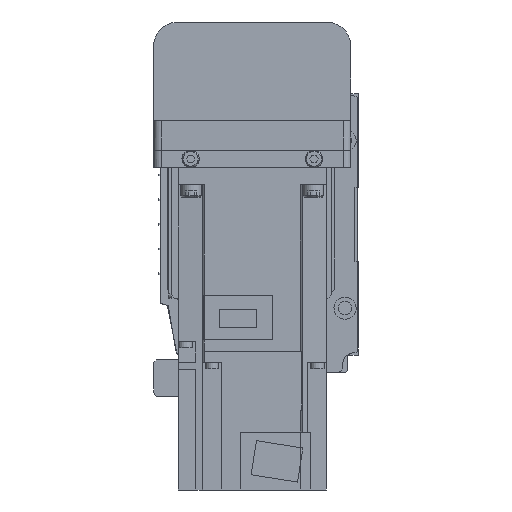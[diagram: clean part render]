
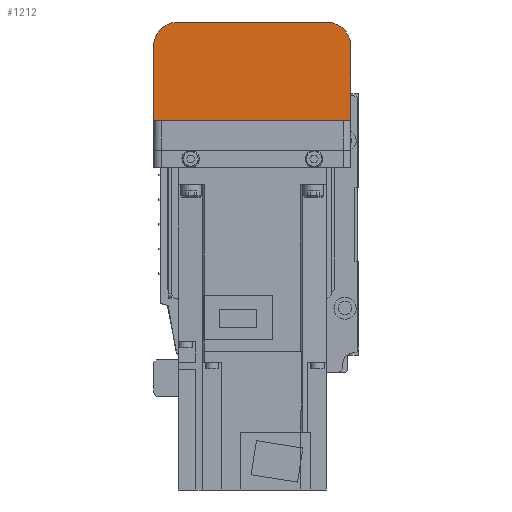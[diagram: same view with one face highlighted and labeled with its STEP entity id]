
A CAD part, left-side view. The second image highlights one B-rep face of the part: STEP entity #1212.
In plain terms, the highlighted planar face has unit normal (-1, 0, 0).
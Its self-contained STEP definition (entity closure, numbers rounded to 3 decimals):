
#1212 = ADVANCED_FACE( '', ( #2966 ), #2967, .F. );
#2966 = FACE_OUTER_BOUND( '', #5454, .T. );
#2967 = PLANE( '', #5455 );
#5454 = EDGE_LOOP( '', ( #8698, #8699, #8700, #8701, #8702, #8703 ) );
#5455 = AXIS2_PLACEMENT_3D( '', #8704, #8705, #8706 );
#8698 = ORIENTED_EDGE( '', *, *, #14723, .F. );
#8699 = ORIENTED_EDGE( '', *, *, #14724, .F. );
#8700 = ORIENTED_EDGE( '', *, *, #14725, .F. );
#8701 = ORIENTED_EDGE( '', *, *, #14726, .F. );
#8702 = ORIENTED_EDGE( '', *, *, #14727, .F. );
#8703 = ORIENTED_EDGE( '', *, *, #14728, .F. );
#8704 = CARTESIAN_POINT( '', ( -192., 37., 7. ) );
#8705 = DIRECTION( '', ( 1., 0., 0. ) );
#8706 = DIRECTION( '', ( 0., 0., -1. ) );
#14723 = EDGE_CURVE( '', #17794, #17795, #17796, .T. );
#14724 = EDGE_CURVE( '', #17797, #17794, #17798, .T. );
#14725 = EDGE_CURVE( '', #17799, #17797, #17800, .T. );
#14726 = EDGE_CURVE( '', #17801, #17799, #17802, .T. );
#14727 = EDGE_CURVE( '', #17803, #17801, #17804, .T. );
#14728 = EDGE_CURVE( '', #17795, #17803, #17805, .T. );
#17794 = VERTEX_POINT( '', #21945 );
#17795 = VERTEX_POINT( '', #21946 );
#17796 = LINE( '', #21947, #21948 );
#17797 = VERTEX_POINT( '', #21949 );
#17798 = LINE( '', #21950, #21951 );
#17799 = VERTEX_POINT( '', #21952 );
#17800 = CIRCLE( '', #21953, 10. );
#17801 = VERTEX_POINT( '', #21954 );
#17802 = LINE( '', #21955, #21956 );
#17803 = VERTEX_POINT( '', #21957 );
#17804 = CIRCLE( '', #21958, 10. );
#17805 = LINE( '', #21959, #21960 );
#21945 = CARTESIAN_POINT( '', ( -192., 40., -12.1 ) );
#21946 = CARTESIAN_POINT( '', ( -192., -40., -12.1 ) );
#21947 = CARTESIAN_POINT( '', ( -192., 50., -12.1 ) );
#21948 = VECTOR( '', #26175, 1000. );
#21949 = CARTESIAN_POINT( '', ( -192., 40., -42. ) );
#21950 = CARTESIAN_POINT( '', ( -192., 40., -42. ) );
#21951 = VECTOR( '', #26176, 1000. );
#21952 = CARTESIAN_POINT( '', ( -192., 30., -52. ) );
#21953 = AXIS2_PLACEMENT_3D( '', #26177, #26178, #26179 );
#21954 = CARTESIAN_POINT( '', ( -192., -30., -52. ) );
#21955 = CARTESIAN_POINT( '', ( -192., -30., -52. ) );
#21956 = VECTOR( '', #26180, 1000. );
#21957 = CARTESIAN_POINT( '', ( -192., -40., -42. ) );
#21958 = AXIS2_PLACEMENT_3D( '', #26181, #26182, #26183 );
#21959 = CARTESIAN_POINT( '', ( -192., -40., -12.1 ) );
#21960 = VECTOR( '', #26184, 1000. );
#26175 = DIRECTION( '', ( 0., -1., 0. ) );
#26176 = DIRECTION( '', ( 0., 0., 1. ) );
#26177 = CARTESIAN_POINT( '', ( -192., 30., -42. ) );
#26178 = DIRECTION( '', ( 1., 0., 0. ) );
#26179 = DIRECTION( '', ( 0., 0., -1. ) );
#26180 = DIRECTION( '', ( 0., 1., 0. ) );
#26181 = CARTESIAN_POINT( '', ( -192., -30., -42. ) );
#26182 = DIRECTION( '', ( 1., 0., 0. ) );
#26183 = DIRECTION( '', ( 0., 0., -1. ) );
#26184 = DIRECTION( '', ( 0., 0., -1. ) );
